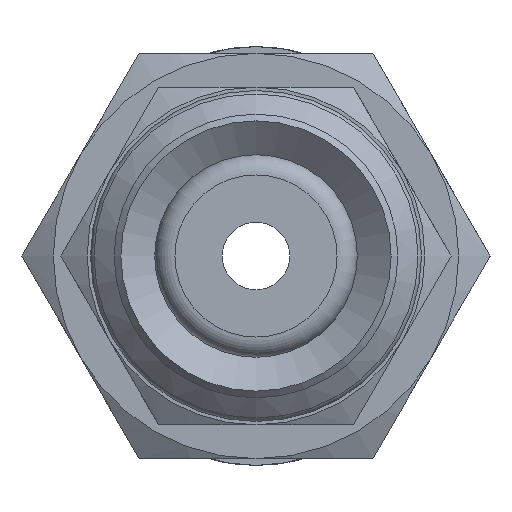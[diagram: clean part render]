
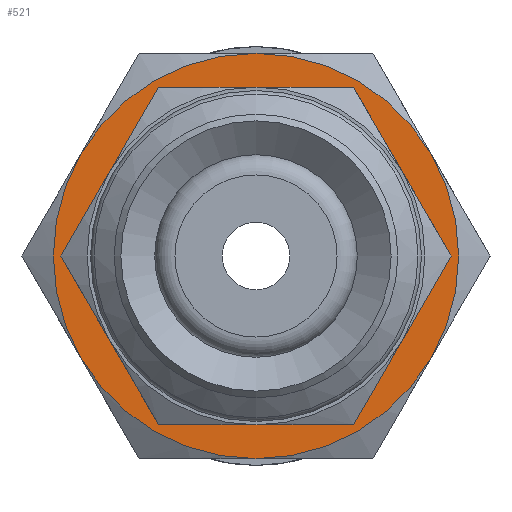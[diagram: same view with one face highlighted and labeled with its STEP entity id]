
A CAD part, front view. The second image highlights one B-rep face of the part: STEP entity #521.
In plain terms, the highlighted planar face has unit normal (0, -1, 0) as drawn and (-1, 0, 0) by its records, which use the part's own axes.
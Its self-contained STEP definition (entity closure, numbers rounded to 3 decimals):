
#521=ADVANCED_FACE('',(#758,#759),#760,.F.);
#758=FACE_BOUND('',#1122,.T.);
#759=FACE_OUTER_BOUND('',#1123,.T.);
#760=PLANE('',#1124);
#1122=EDGE_LOOP('',(#2001));
#1123=EDGE_LOOP('',(#2002,#2003,#2004,#2005,#2006,#2007));
#1124=AXIS2_PLACEMENT_3D('',#2008,#2009,#2010);
#2001=ORIENTED_EDGE('',*,*,#2625,.T.);
#2002=ORIENTED_EDGE('',*,*,#2600,.F.);
#2003=ORIENTED_EDGE('',*,*,#2601,.F.);
#2004=ORIENTED_EDGE('',*,*,#2626,.F.);
#2005=ORIENTED_EDGE('',*,*,#2583,.F.);
#2006=ORIENTED_EDGE('',*,*,#2628,.F.);
#2007=ORIENTED_EDGE('',*,*,#2627,.F.);
#2008=CARTESIAN_POINT('',(0.,0.0,0.0));
#2009=DIRECTION('',(1.0,0.0,0.0));
#2010=DIRECTION('',(0.0,1.0,0.0));
#2583=EDGE_CURVE('',#2904,#2905,#2906,.T.);
#2600=EDGE_CURVE('',#2934,#2931,#2936,.T.);
#2601=EDGE_CURVE('',#2937,#2934,#2938,.T.);
#2625=EDGE_CURVE('',#2973,#2973,#2974,.T.);
#2626=EDGE_CURVE('',#2905,#2937,#2975,.T.);
#2627=EDGE_CURVE('',#2931,#2946,#2976,.T.);
#2628=EDGE_CURVE('',#2946,#2904,#2977,.T.);
#2904=VERTEX_POINT('',#3428);
#2905=VERTEX_POINT('',#3429);
#2906=CIRCLE('',#3430,6.0);
#2931=VERTEX_POINT('',#3539);
#2934=VERTEX_POINT('',#3562);
#2936=CIRCLE('',#3574,6.0);
#2937=VERTEX_POINT('',#3575);
#2938=CIRCLE('',#3576,6.0);
#2946=VERTEX_POINT('',#3615);
#2973=VERTEX_POINT('',#3743);
#2974=CIRCLE('',#3744,4.0);
#2975=CIRCLE('',#3745,6.0);
#2976=CIRCLE('',#3746,6.0);
#2977=CIRCLE('',#3747,6.0);
#3428=CARTESIAN_POINT('',(0.,-5.196,3.0));
#3429=CARTESIAN_POINT('',(0.,-5.196,-3.0));
#3430=AXIS2_PLACEMENT_3D('',#4429,#4430,#4431);
#3539=CARTESIAN_POINT('',(0.,5.196,3.0));
#3562=CARTESIAN_POINT('',(0.,5.196,-3.0));
#3574=AXIS2_PLACEMENT_3D('',#4439,#4440,#4441);
#3575=CARTESIAN_POINT('',(0.,0.0,-6.0));
#3576=AXIS2_PLACEMENT_3D('',#4442,#4443,#4444);
#3615=CARTESIAN_POINT('',(0.,0.0,6.0));
#3743=CARTESIAN_POINT('',(0.,0.0,-4.0));
#3744=AXIS2_PLACEMENT_3D('',#4471,#4472,#4473);
#3745=AXIS2_PLACEMENT_3D('',#4474,#4475,#4476);
#3746=AXIS2_PLACEMENT_3D('',#4477,#4478,#4479);
#3747=AXIS2_PLACEMENT_3D('',#4480,#4481,#4482);
#4429=CARTESIAN_POINT('',(0.,0.0,0.0));
#4430=DIRECTION('',(1.0,0.0,0.0));
#4431=DIRECTION('',(0.0,0.0,-1.0));
#4439=CARTESIAN_POINT('',(0.,0.0,0.0));
#4440=DIRECTION('',(1.0,0.0,0.0));
#4441=DIRECTION('',(0.0,0.0,-1.0));
#4442=CARTESIAN_POINT('',(0.,0.0,0.0));
#4443=DIRECTION('',(1.0,0.0,0.0));
#4444=DIRECTION('',(0.0,0.0,-1.0));
#4471=CARTESIAN_POINT('',(0.,0.0,0.0));
#4472=DIRECTION('',(1.0,0.0,0.0));
#4473=DIRECTION('',(0.0,0.0,-1.0));
#4474=CARTESIAN_POINT('',(0.,0.0,0.0));
#4475=DIRECTION('',(1.0,0.0,0.0));
#4476=DIRECTION('',(0.0,0.0,-1.0));
#4477=CARTESIAN_POINT('',(0.,0.0,0.0));
#4478=DIRECTION('',(1.0,0.0,0.0));
#4479=DIRECTION('',(0.0,0.0,-1.0));
#4480=CARTESIAN_POINT('',(0.,0.0,0.0));
#4481=DIRECTION('',(1.0,0.0,0.0));
#4482=DIRECTION('',(0.0,0.0,-1.0));
